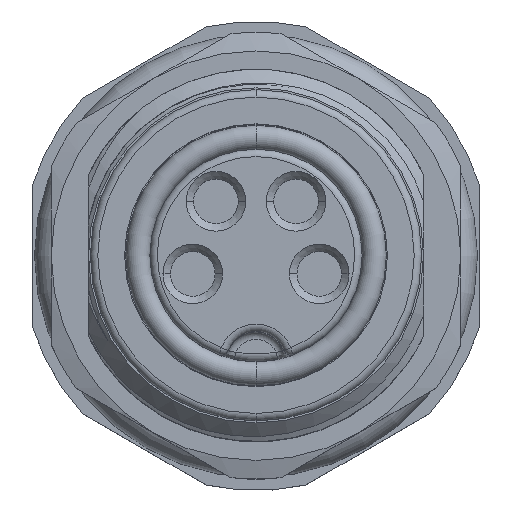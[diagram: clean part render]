
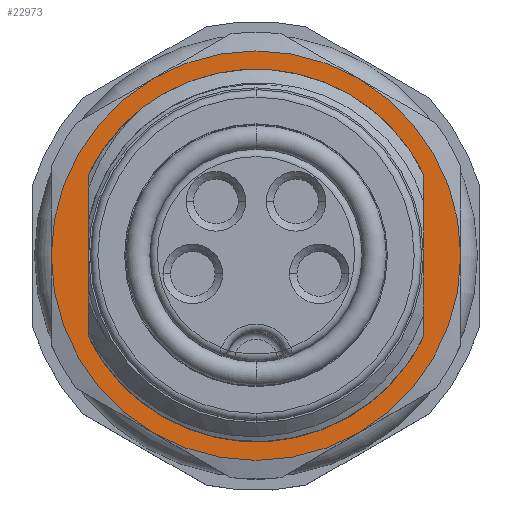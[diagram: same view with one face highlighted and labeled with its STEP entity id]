
A CAD part, top view. The second image highlights one B-rep face of the part: STEP entity #22973.
In plain terms, the highlighted planar face has unit normal (0, 0, 1).
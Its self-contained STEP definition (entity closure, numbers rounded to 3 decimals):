
#311=DIRECTION('',(0.,-1.,0.));
#312=VECTOR('',#311,2.301);
#313=CARTESIAN_POINT('',(4.5,1.359,-6.058));
#314=LINE('',#313,#312);
#389=CARTESIAN_POINT('',(-1.016,-4.48,-6.058));
#390=CARTESIAN_POINT('',(-1.168,-4.453,-6.058));
#391=CARTESIAN_POINT('',(-1.466,-4.384,-6.058));
#392=CARTESIAN_POINT('',(-1.904,-4.235,-6.058));
#393=CARTESIAN_POINT('',(-2.325,-4.043,-6.058));
#394=CARTESIAN_POINT('',(-2.727,-3.808,-6.058));
#395=CARTESIAN_POINT('',(-3.105,-3.535,-6.058));
#396=CARTESIAN_POINT('',(-3.455,-3.224,-6.058));
#397=CARTESIAN_POINT('',(-3.773,-2.878,-6.058));
#398=CARTESIAN_POINT('',(-4.057,-2.502,-6.058));
#399=CARTESIAN_POINT('',(-4.303,-2.097,-6.058));
#400=CARTESIAN_POINT('',(-4.439,-1.814,-6.058));
#401=CARTESIAN_POINT('',(-4.5,-1.668,-6.058));
#423=CARTESIAN_POINT('',(-4.5,2.092,-6.058));
#424=CARTESIAN_POINT('',(-4.442,2.232,-6.058));
#425=CARTESIAN_POINT('',(-4.314,2.504,-6.058));
#426=CARTESIAN_POINT('',(-4.163,2.762,-6.058));
#427=CARTESIAN_POINT('',(-4.082,2.888,-6.058));
#1197=CARTESIAN_POINT('',(0.,0.,-6.058));
#1198=DIRECTION('',(0.,0.,-1.));
#1199=DIRECTION('',(-0.816,0.578,0.));
#1200=AXIS2_PLACEMENT_3D('',#1197,#1198,#1199);
#1266=DIRECTION('',(0.,1.,0.));
#1267=VECTOR('',#1266,3.761);
#1268=CARTESIAN_POINT('',(-4.5,-1.668,-6.058));
#1269=LINE('',#1268,#1267);
#1356=CARTESIAN_POINT('',(0.687,4.888,-6.058));
#1357=CARTESIAN_POINT('',(0.84,4.86,-6.058));
#1358=CARTESIAN_POINT('',(1.141,4.79,-6.058));
#1359=CARTESIAN_POINT('',(1.583,4.642,-6.058));
#1360=CARTESIAN_POINT('',(2.004,4.455,-6.058));
#1361=CARTESIAN_POINT('',(2.407,4.228,-6.058));
#1362=CARTESIAN_POINT('',(2.784,3.966,-6.058));
#1363=CARTESIAN_POINT('',(3.134,3.67,-6.058));
#1364=CARTESIAN_POINT('',(3.454,3.342,-6.058));
#1365=CARTESIAN_POINT('',(3.74,2.988,-6.058));
#1366=CARTESIAN_POINT('',(3.99,2.609,-6.058));
#1367=CARTESIAN_POINT('',(4.203,2.208,-6.058));
#1368=CARTESIAN_POINT('',(4.375,1.791,-6.058));
#1369=CARTESIAN_POINT('',(4.463,1.505,-6.058));
#1370=CARTESIAN_POINT('',(4.5,1.359,-6.058));
#1398=CARTESIAN_POINT('',(4.5,-0.942,-6.058));
#1399=CARTESIAN_POINT('',(4.497,-0.954,-6.058));
#1400=CARTESIAN_POINT('',(4.49,-0.979,-6.058));
#1401=CARTESIAN_POINT('',(4.484,-1.004,-6.058));
#1402=CARTESIAN_POINT('',(4.48,-1.016,-6.058));
#2026=CARTESIAN_POINT('',(4.48,-1.016,-6.058));
#2027=CARTESIAN_POINT('',(4.448,-1.159,-6.058));
#2028=CARTESIAN_POINT('',(4.37,-1.439,-6.058));
#2029=CARTESIAN_POINT('',(4.214,-1.846,-6.058));
#2030=CARTESIAN_POINT('',(4.02,-2.239,-6.058));
#2031=CARTESIAN_POINT('',(3.789,-2.609,-6.058));
#2032=CARTESIAN_POINT('',(3.524,-2.958,-6.058));
#2033=CARTESIAN_POINT('',(3.227,-3.279,-6.058));
#2034=CARTESIAN_POINT('',(2.904,-3.569,-6.058));
#2035=CARTESIAN_POINT('',(2.552,-3.828,-6.058));
#2036=CARTESIAN_POINT('',(2.176,-4.054,-6.058));
#2037=CARTESIAN_POINT('',(1.774,-4.245,-6.058));
#2038=CARTESIAN_POINT('',(1.36,-4.395,-6.058));
#2039=CARTESIAN_POINT('',(0.954,-4.5,-6.058));
#2040=CARTESIAN_POINT('',(0.559,-4.566,-6.058));
#2041=CARTESIAN_POINT('',(0.169,-4.596,-6.058));
#2042=CARTESIAN_POINT('',(-0.225,-4.594,-6.058));
#2043=CARTESIAN_POINT('',(-0.623,-4.557,-6.058));
#2044=CARTESIAN_POINT('',(-0.886,-4.51,-6.058));
#2045=CARTESIAN_POINT('',(-1.016,-4.48,-6.058));
#2849=CARTESIAN_POINT('',(-0.844,4.928,-6.058));
#2850=CARTESIAN_POINT('',(-0.771,4.938,-6.058));
#2851=CARTESIAN_POINT('',(-0.626,4.953,-6.058));
#2852=CARTESIAN_POINT('',(-0.406,4.967,-6.058));
#2853=CARTESIAN_POINT('',(-0.187,4.971,-6.058));
#2854=CARTESIAN_POINT('',(0.033,4.965,-6.058));
#2855=CARTESIAN_POINT('',(0.252,4.95,-6.058));
#2856=CARTESIAN_POINT('',(0.47,4.924,-6.058));
#2857=CARTESIAN_POINT('',(0.615,4.901,-6.058));
#2858=CARTESIAN_POINT('',(0.687,4.888,-6.058));
#3933=CARTESIAN_POINT('',(0.,0.,-6.058));
#3934=DIRECTION('',(0.,0.,-1.));
#3935=DIRECTION('',(0.5,0.866,0.));
#3936=AXIS2_PLACEMENT_3D('',#3933,#3934,#3935);
#3938=CARTESIAN_POINT('',(0.,0.,-6.058));
#3939=DIRECTION('',(0.,0.,-1.));
#3940=DIRECTION('',(1.,0.,0.));
#3941=AXIS2_PLACEMENT_3D('',#3938,#3939,#3940);
#3943=CARTESIAN_POINT('',(0.,0.,-6.058));
#3944=DIRECTION('',(0.,0.,-1.));
#3945=DIRECTION('',(-0.5,-0.866,0.));
#3946=AXIS2_PLACEMENT_3D('',#3943,#3944,#3945);
#3948=CARTESIAN_POINT('',(0.,0.,-6.058));
#3949=DIRECTION('',(0.,0.,-1.));
#3950=DIRECTION('',(-1.,0.,0.));
#3951=AXIS2_PLACEMENT_3D('',#3948,#3949,#3950);
#3958=CARTESIAN_POINT('',(0.,0.,-6.058));
#3959=DIRECTION('',(0.,0.,1.));
#3960=DIRECTION('',(-0.5,-0.866,0.));
#3961=AXIS2_PLACEMENT_3D('',#3958,#3959,#3960);
#3963=CARTESIAN_POINT('',(0.,0.,-6.058));
#3964=DIRECTION('',(0.,0.,1.));
#3965=DIRECTION('',(0.5,0.866,0.));
#3966=AXIS2_PLACEMENT_3D('',#3963,#3964,#3965);
#4037=CARTESIAN_POINT('',(-2.75,-4.763,-6.058));
#4093=CARTESIAN_POINT('',(-5.5,0.,-6.058));
#4149=CARTESIAN_POINT('',(-2.75,4.763,-6.058));
#4195=CARTESIAN_POINT('',(2.75,4.763,-6.058));
#4251=CARTESIAN_POINT('',(5.5,0.,-6.058));
#4293=CARTESIAN_POINT('',(2.75,-4.763,-6.058));
#4426=CARTESIAN_POINT('',(-4.082,2.888,-6.058));
#4427=CARTESIAN_POINT('',(-0.844,4.928,-6.058));
#4428=VERTEX_POINT('',#4426);
#4429=VERTEX_POINT('',#4427);
#4434=CARTESIAN_POINT('',(4.5,1.359,-6.058));
#4435=CARTESIAN_POINT('',(4.5,-0.942,-6.058));
#4436=VERTEX_POINT('',#4434);
#4437=VERTEX_POINT('',#4435);
#4442=CARTESIAN_POINT('',(-4.5,-1.668,-6.058));
#4443=CARTESIAN_POINT('',(-4.5,2.092,-6.058));
#4444=VERTEX_POINT('',#4442);
#4445=VERTEX_POINT('',#4443);
#4446=VERTEX_POINT('',#2858);
#4462=VERTEX_POINT('',#4195);
#4466=VERTEX_POINT('',#4149);
#4474=VERTEX_POINT('',#4093);
#4482=VERTEX_POINT('',#4037);
#4486=VERTEX_POINT('',#4293);
#4492=VERTEX_POINT('',#4251);
#4824=VERTEX_POINT('',#1402);
#4826=VERTEX_POINT('',#389);
#22943=CARTESIAN_POINT('',(0.,0.,-6.058));
#22944=DIRECTION('',(0.,0.,1.));
#22945=DIRECTION('',(1.,0.,0.));
#22946=AXIS2_PLACEMENT_3D('',#22943,#22944,#22945);
#22947=PLANE('',#22946);
#22949=ORIENTED_EDGE('',*,*,#22948,.F.);
#22951=ORIENTED_EDGE('',*,*,#22950,.T.);
#22953=ORIENTED_EDGE('',*,*,#22952,.T.);
#22955=ORIENTED_EDGE('',*,*,#22954,.F.);
#22957=ORIENTED_EDGE('',*,*,#22956,.T.);
#22959=ORIENTED_EDGE('',*,*,#22958,.T.);
#22960=EDGE_LOOP('',(#22949,#22951,#22953,#22955,#22957,#22959));
#22961=FACE_OUTER_BOUND('',#22960,.F.);
#22962=ORIENTED_EDGE('',*,*,#8297,.F.);
#22963=ORIENTED_EDGE('',*,*,#8087,.F.);
#22964=ORIENTED_EDGE('',*,*,#8347,.F.);
#22965=ORIENTED_EDGE('',*,*,#7806,.F.);
#22966=ORIENTED_EDGE('',*,*,#11623,.F.);
#22967=ORIENTED_EDGE('',*,*,#9829,.F.);
#22968=ORIENTED_EDGE('',*,*,#6555,.F.);
#22969=ORIENTED_EDGE('',*,*,#9550,.F.);
#22970=ORIENTED_EDGE('',*,*,#18266,.F.);
#22971=EDGE_LOOP('',(#22962,#22963,#22964,#22965,#22966,#22967,#22968,#22969,
#22970));
#22972=FACE_BOUND('',#22971,.F.);
#402=B_SPLINE_CURVE_WITH_KNOTS('',3,(#389,#390,#391,#392,#393,#394,#395,#396,
#397,#398,#399,#400,#401),.UNSPECIFIED.,.F.,.F.,(4,1,1,1,1,1,1,1,1,1,4),(0.,
0.1,0.2,0.3,0.4,0.5,0.6,0.7,0.8,0.9,1.),.UNSPECIFIED.);
#428=B_SPLINE_CURVE_WITH_KNOTS('',3,(#423,#424,#425,#426,#427),.UNSPECIFIED.,
.F.,.F.,(4,1,4),(0.,0.5,1.),.UNSPECIFIED.);
#1201=CIRCLE('',#1200,5.);
#1371=B_SPLINE_CURVE_WITH_KNOTS('',3,(#1356,#1357,#1358,#1359,#1360,#1361,#1362,
#1363,#1364,#1365,#1366,#1367,#1368,#1369,#1370),.UNSPECIFIED.,.F.,.F.,(4,1,1,1,
1,1,1,1,1,1,1,1,4),(0.,0.083,0.167,0.25,
0.333,0.417,0.5,0.583,0.667,
0.75,0.833,0.917,1.),.UNSPECIFIED.);
#1403=B_SPLINE_CURVE_WITH_KNOTS('',3,(#1398,#1399,#1400,#1401,#1402),
.UNSPECIFIED.,.F.,.F.,(4,1,4),(0.,0.5,1.),.UNSPECIFIED.);
#2046=B_SPLINE_CURVE_WITH_KNOTS('',3,(#2026,#2027,#2028,#2029,#2030,#2031,#2032,
#2033,#2034,#2035,#2036,#2037,#2038,#2039,#2040,#2041,#2042,#2043,#2044,#2045),
.UNSPECIFIED.,.F.,.F.,(4,1,1,1,1,1,1,1,1,1,1,1,1,1,1,1,1,4),(0.,
0.059,0.118,0.176,0.235,
0.294,0.353,0.412,0.471,
0.529,0.588,0.647,0.706,
0.765,0.824,0.882,0.941,1.),
.UNSPECIFIED.);
#2859=B_SPLINE_CURVE_WITH_KNOTS('',3,(#2849,#2850,#2851,#2852,#2853,#2854,#2855,
#2856,#2857,#2858),.UNSPECIFIED.,.F.,.F.,(4,1,1,1,1,1,1,4),(0.,
0.143,0.286,0.429,0.571,
0.714,0.857,1.),.UNSPECIFIED.);
#3937=CIRCLE('',#3936,5.5);
#3942=CIRCLE('',#3941,5.5);
#3947=CIRCLE('',#3946,5.5);
#3952=CIRCLE('',#3951,5.5);
#3962=CIRCLE('',#3961,5.5);
#3967=CIRCLE('',#3966,5.5);
#6555=EDGE_CURVE('',#4436,#4437,#314,.T.);
#7806=EDGE_CURVE('',#4826,#4444,#402,.T.);
#8087=EDGE_CURVE('',#4445,#4428,#428,.T.);
#8297=EDGE_CURVE('',#4428,#4429,#1201,.T.);
#8347=EDGE_CURVE('',#4444,#4445,#1269,.T.);
#9550=EDGE_CURVE('',#4446,#4436,#1371,.T.);
#9829=EDGE_CURVE('',#4437,#4824,#1403,.T.);
#11623=EDGE_CURVE('',#4824,#4826,#2046,.T.);
#18266=EDGE_CURVE('',#4429,#4446,#2859,.T.);
#22948=EDGE_CURVE('',#4462,#4466,#3967,.T.);
#22950=EDGE_CURVE('',#4462,#4492,#3937,.T.);
#22952=EDGE_CURVE('',#4492,#4486,#3942,.T.);
#22954=EDGE_CURVE('',#4482,#4486,#3962,.T.);
#22956=EDGE_CURVE('',#4482,#4474,#3947,.T.);
#22958=EDGE_CURVE('',#4474,#4466,#3952,.T.);
#22973=ADVANCED_FACE('',(#22961,#22972),#22947,.T.);
